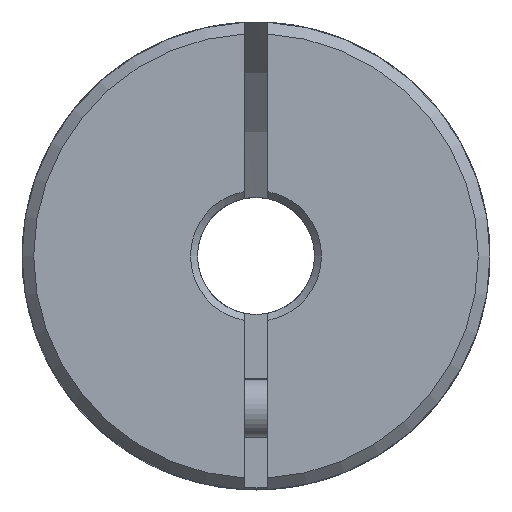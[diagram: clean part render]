
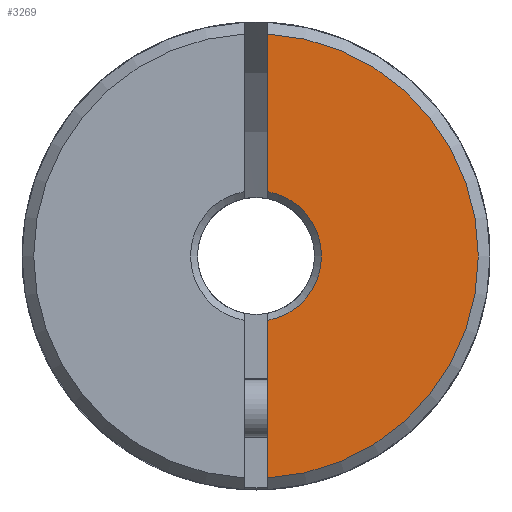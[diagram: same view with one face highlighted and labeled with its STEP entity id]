
A CAD part, front view. The second image highlights one B-rep face of the part: STEP entity #3269.
In plain terms, the highlighted planar face has unit normal (0, -1, 0).
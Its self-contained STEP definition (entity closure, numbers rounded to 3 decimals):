
#301 = CARTESIAN_POINT ( 'NONE',  ( 0.5, -33., -12.292 ) ) ;
#417 = EDGE_CURVE ( 'NONE', #2255, #2884, #7726, .T. ) ;
#639 = CARTESIAN_POINT ( 'NONE',  ( 0., -33., 0. ) ) ;
#696 = CARTESIAN_POINT ( 'NONE',  ( 0.5, -33., 9.487 ) ) ;
#1020 = CARTESIAN_POINT ( 'NONE',  ( 0., -33., 0. ) ) ;
#1951 = CARTESIAN_POINT ( 'NONE',  ( 0.5, -33., -2.755 ) ) ;
#2046 = VERTEX_POINT ( 'NONE', #1951 ) ;
#2255 = VERTEX_POINT ( 'NONE', #5527 ) ;
#2293 = DIRECTION ( 'NONE',  ( 0., 0., -1. ) ) ;
#2323 = EDGE_CURVE ( 'NONE', #9957, #2046, #3332, .T. ) ;
#2366 = DIRECTION ( 'NONE',  ( 0., 1., 0. ) ) ;
#2409 = LINE ( 'NONE', #301, #7912 ) ;
#2769 = CARTESIAN_POINT ( 'NONE',  ( 0.5, -33., 2.755 ) ) ;
#2865 = AXIS2_PLACEMENT_3D ( 'NONE', #1020, #6611, #7362 ) ;
#2884 = VERTEX_POINT ( 'NONE', #696 ) ;
#3269 = ADVANCED_FACE ( 'NONE', ( #6828 ), #9408, .F. ) ;
#3317 = ORIENTED_EDGE ( 'NONE', *, *, #4911, .F. ) ;
#3332 = CIRCLE ( 'NONE', #4026, 2.8 ) ;
#4026 = AXIS2_PLACEMENT_3D ( 'NONE', #639, #7060, #2293 ) ;
#4170 = EDGE_CURVE ( 'NONE', #9957, #2884, #4314, .T. ) ;
#4314 = LINE ( 'NONE', #4937, #5420 ) ;
#4911 = EDGE_CURVE ( 'NONE', #2255, #2046, #2409, .T. ) ;
#4937 = CARTESIAN_POINT ( 'NONE',  ( 0.5, -33., -12.292 ) ) ;
#5241 = AXIS2_PLACEMENT_3D ( 'NONE', #8642, #2366, #8614 ) ;
#5420 = VECTOR ( 'NONE', #5794, 1000. ) ;
#5527 = CARTESIAN_POINT ( 'NONE',  ( 0.5, -33., -9.487 ) ) ;
#5794 = DIRECTION ( 'NONE',  ( 0., 0., 1. ) ) ;
#6611 = DIRECTION ( 'NONE',  ( 0., -1., 0. ) ) ;
#6828 = FACE_OUTER_BOUND ( 'NONE', #9416, .T. ) ;
#7060 = DIRECTION ( 'NONE',  ( 0., 1., 0. ) ) ;
#7362 = DIRECTION ( 'NONE',  ( 0., 0., -1. ) ) ;
#7701 = ORIENTED_EDGE ( 'NONE', *, *, #4170, .F. ) ;
#7726 = CIRCLE ( 'NONE', #2865, 9.5 ) ;
#7912 = VECTOR ( 'NONE', #8919, 1000. ) ;
#8480 = ORIENTED_EDGE ( 'NONE', *, *, #2323, .T. ) ;
#8614 = DIRECTION ( 'NONE',  ( 0., 0., -1. ) ) ;
#8642 = CARTESIAN_POINT ( 'NONE',  ( 50., -33., -12.292 ) ) ;
#8919 = DIRECTION ( 'NONE',  ( 0., 0., 1. ) ) ;
#9408 = PLANE ( 'NONE',  #5241 ) ;
#9416 = EDGE_LOOP ( 'NONE', ( #3317, #9425, #7701, #8480 ) ) ;
#9425 = ORIENTED_EDGE ( 'NONE', *, *, #417, .T. ) ;
#9957 = VERTEX_POINT ( 'NONE', #2769 ) ;
